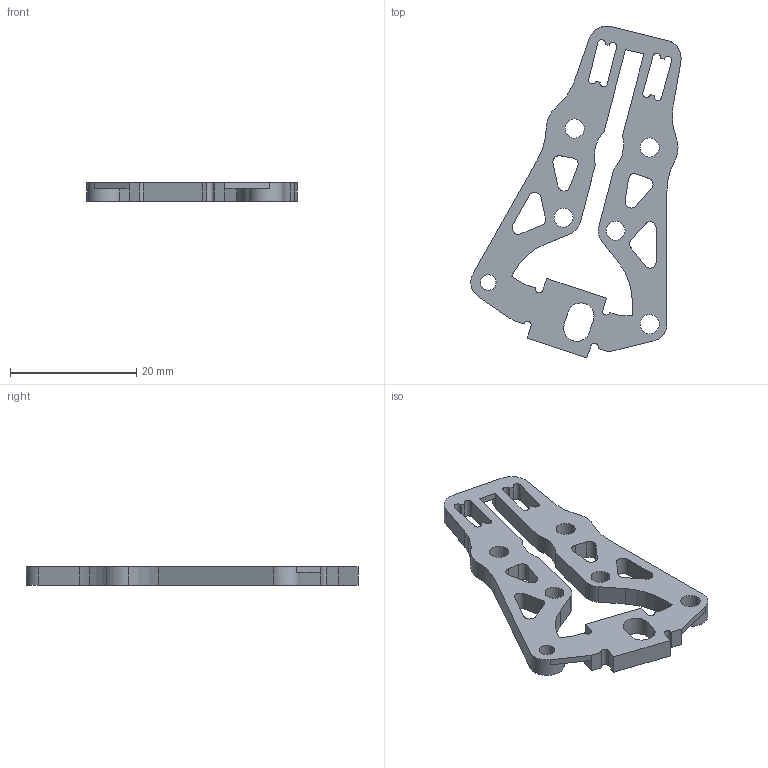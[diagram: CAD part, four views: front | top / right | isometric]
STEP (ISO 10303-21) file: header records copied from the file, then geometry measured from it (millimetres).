
FILE_DESCRIPTION (( 'STEP AP214' ), '1' );
FILE_NAME ('啊裝ぐ唳.STEP', '2026-04-15T04:33:42', ( '' ), ( '' ), 'SwSTEP 2.0', 'SolidWorks 2024', '' );
FILE_SCHEMA (( 'AUTOMOTIVE_DESIGN' ));
Length unit declared in the file: millimetre
Products named in the file (1): 摆杆拼版
Bounding box: 33.35 x 52.65 x 3 mm (x, y, z)
Volume: 2058.9 mm3; surface area: 2777.8 mm2
Topology: 1 solids, 1 shells, 130 faces, 381 edges, 252 vertices
Faces by surface type: cylinder 71, plane 59
Entity records: 4442 total; most frequent: DIRECTION 789, CARTESIAN_POINT 764, ORIENTED_EDGE 762, EDGE_CURVE 381, AXIS2_PLACEMENT_3D 277, VERTEX_POINT 252, VECTOR 235, LINE 235
